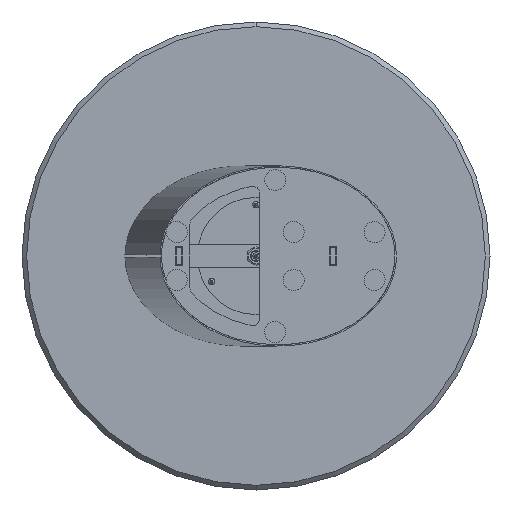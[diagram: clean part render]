
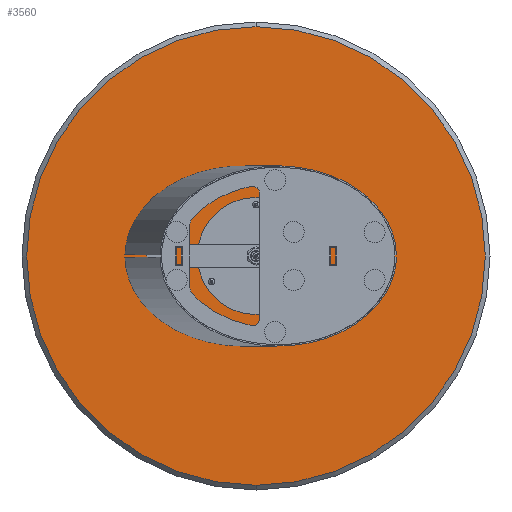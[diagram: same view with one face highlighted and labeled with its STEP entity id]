
A CAD part, front view. The second image highlights one B-rep face of the part: STEP entity #3560.
In plain terms, the highlighted planar face has unit normal (0, -1, 0).
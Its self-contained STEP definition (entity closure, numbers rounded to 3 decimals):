
#107 = ORIENTED_EDGE ( 'NONE', *, *, #2901, .F. ) ;
#286 = DIRECTION ( 'NONE',  ( 0., 0., -1. ) ) ;
#292 = DIRECTION ( 'NONE',  ( 0., 0., -1. ) ) ;
#457 = EDGE_LOOP ( 'NONE', ( #11800, #8296 ) ) ;
#566 = FACE_BOUND ( 'NONE', #9081, .T. ) ;
#742 = CARTESIAN_POINT ( 'NONE',  ( 0., 0., 490. ) ) ;
#769 = FACE_BOUND ( 'NONE', #457, .T. ) ;
#1078 = VERTEX_POINT ( 'NONE', #11345 ) ;
#1106 = CIRCLE ( 'NONE', #7810, 490. ) ;
#1514 = CARTESIAN_POINT ( 'NONE',  ( -95., 0., -51.448 ) ) ;
#1568 = CARTESIAN_POINT ( 'NONE',  ( 95., 0., -54.848 ) ) ;
#1632 = EDGE_CURVE ( 'NONE', #5362, #4061, #10509, .T. ) ;
#1647 = FACE_BOUND ( 'NONE', #8093, .T. ) ;
#1713 = CARTESIAN_POINT ( 'NONE',  ( 0., 0., 0. ) ) ;
#2274 = EDGE_CURVE ( 'NONE', #4061, #5362, #3572, .T. ) ;
#2595 = DIRECTION ( 'NONE',  ( 0., -1., 0. ) ) ;
#2641 = DIRECTION ( 'NONE',  ( 0., 0., -1. ) ) ;
#2680 = VERTEX_POINT ( 'NONE', #5442 ) ;
#2862 = FACE_BOUND ( 'NONE', #8043, .T. ) ;
#2901 = EDGE_CURVE ( 'NONE', #8291, #2680, #8215, .T. ) ;
#2925 = CIRCLE ( 'NONE', #6180, 490. ) ;
#3145 = ORIENTED_EDGE ( 'NONE', *, *, #10932, .F. ) ;
#3267 = DIRECTION ( 'NONE',  ( 0., -1., 0. ) ) ;
#3481 = DIRECTION ( 'NONE',  ( 0., 0., -1. ) ) ;
#3524 = ORIENTED_EDGE ( 'NONE', *, *, #8161, .F. ) ;
#3560 = ADVANCED_FACE ( 'NONE', ( #2862, #1647, #769, #566, #11616 ), #5042, .T. ) ;
#3572 = CIRCLE ( 'NONE', #8429, 3.4 ) ;
#3620 = ORIENTED_EDGE ( 'NONE', *, *, #10472, .T. ) ;
#3823 = AXIS2_PLACEMENT_3D ( 'NONE', #6889, #10133, #292 ) ;
#3869 = CIRCLE ( 'NONE', #6421, 3.4 ) ;
#3883 = DIRECTION ( 'NONE',  ( 0., 0., -1. ) ) ;
#3884 = AXIS2_PLACEMENT_3D ( 'NONE', #9182, #2595, #286 ) ;
#3980 = VERTEX_POINT ( 'NONE', #10248 ) ;
#4022 = AXIS2_PLACEMENT_3D ( 'NONE', #12095, #13184, #5390 ) ;
#4061 = VERTEX_POINT ( 'NONE', #9726 ) ;
#4075 = CIRCLE ( 'NONE', #12159, 3.4 ) ;
#4216 = DIRECTION ( 'NONE',  ( 0., -1., 0. ) ) ;
#4547 = VERTEX_POINT ( 'NONE', #1514 ) ;
#4588 = DIRECTION ( 'NONE',  ( 0., 0., -1. ) ) ;
#5042 = PLANE ( 'NONE',  #10763 ) ;
#5362 = VERTEX_POINT ( 'NONE', #9365 ) ;
#5375 = DIRECTION ( 'NONE',  ( 0., -1., 0. ) ) ;
#5390 = DIRECTION ( 'NONE',  ( 0., 0., -1. ) ) ;
#5442 = CARTESIAN_POINT ( 'NONE',  ( 0., 0., -3.4 ) ) ;
#5644 = CARTESIAN_POINT ( 'NONE',  ( -95., 0., -58.248 ) ) ;
#6060 = EDGE_CURVE ( 'NONE', #4547, #9964, #4075, .T. ) ;
#6180 = AXIS2_PLACEMENT_3D ( 'NONE', #13045, #4216, #10882 ) ;
#6254 = EDGE_CURVE ( 'NONE', #3980, #12107, #3869, .T. ) ;
#6421 = AXIS2_PLACEMENT_3D ( 'NONE', #7888, #11499, #10352 ) ;
#6466 = CARTESIAN_POINT ( 'NONE',  ( -95., 0., -54.848 ) ) ;
#6472 = ORIENTED_EDGE ( 'NONE', *, *, #9407, .T. ) ;
#6889 = CARTESIAN_POINT ( 'NONE',  ( 0., 0., 0. ) ) ;
#7009 = VERTEX_POINT ( 'NONE', #742 ) ;
#7360 = DIRECTION ( 'NONE',  ( 0., -1., 0. ) ) ;
#7810 = AXIS2_PLACEMENT_3D ( 'NONE', #13396, #3267, #3481 ) ;
#7888 = CARTESIAN_POINT ( 'NONE',  ( 95., 0., -54.848 ) ) ;
#8043 = EDGE_LOOP ( 'NONE', ( #3524, #11211 ) ) ;
#8093 = EDGE_LOOP ( 'NONE', ( #8610, #10260 ) ) ;
#8161 = EDGE_CURVE ( 'NONE', #9964, #4547, #10782, .T. ) ;
#8215 = CIRCLE ( 'NONE', #3823, 3.4 ) ;
#8224 = CARTESIAN_POINT ( 'NONE',  ( -95., 0., -54.848 ) ) ;
#8291 = VERTEX_POINT ( 'NONE', #9728 ) ;
#8296 = ORIENTED_EDGE ( 'NONE', *, *, #2274, .F. ) ;
#8429 = AXIS2_PLACEMENT_3D ( 'NONE', #11107, #9073, #4588 ) ;
#8610 = ORIENTED_EDGE ( 'NONE', *, *, #14142, .F. ) ;
#9004 = CIRCLE ( 'NONE', #13869, 3.4 ) ;
#9073 = DIRECTION ( 'NONE',  ( 0., -1., 0. ) ) ;
#9081 = EDGE_LOOP ( 'NONE', ( #3145, #107 ) ) ;
#9182 = CARTESIAN_POINT ( 'NONE',  ( 0., 0., 0. ) ) ;
#9365 = CARTESIAN_POINT ( 'NONE',  ( 0., 0., 106.297 ) ) ;
#9407 = EDGE_CURVE ( 'NONE', #1078, #7009, #2925, .T. ) ;
#9658 = DIRECTION ( 'NONE',  ( 0., -1., 0. ) ) ;
#9726 = CARTESIAN_POINT ( 'NONE',  ( 0., 0., 113.097 ) ) ;
#9728 = CARTESIAN_POINT ( 'NONE',  ( 0., 0., 3.4 ) ) ;
#9773 = DIRECTION ( 'NONE',  ( 0., 0., -1. ) ) ;
#9881 = CIRCLE ( 'NONE', #3884, 3.4 ) ;
#9964 = VERTEX_POINT ( 'NONE', #5644 ) ;
#10133 = DIRECTION ( 'NONE',  ( 0., -1., 0. ) ) ;
#10248 = CARTESIAN_POINT ( 'NONE',  ( 95., 0., -51.448 ) ) ;
#10260 = ORIENTED_EDGE ( 'NONE', *, *, #6254, .F. ) ;
#10352 = DIRECTION ( 'NONE',  ( 0., 0., -1. ) ) ;
#10361 = EDGE_LOOP ( 'NONE', ( #3620, #6472 ) ) ;
#10472 = EDGE_CURVE ( 'NONE', #7009, #1078, #1106, .T. ) ;
#10509 = CIRCLE ( 'NONE', #4022, 3.4 ) ;
#10763 = AXIS2_PLACEMENT_3D ( 'NONE', #1713, #7360, #3883 ) ;
#10782 = CIRCLE ( 'NONE', #13585, 3.4 ) ;
#10882 = DIRECTION ( 'NONE',  ( 0., 0., -1. ) ) ;
#10932 = EDGE_CURVE ( 'NONE', #2680, #8291, #9881, .T. ) ;
#11107 = CARTESIAN_POINT ( 'NONE',  ( 0., 0., 109.697 ) ) ;
#11211 = ORIENTED_EDGE ( 'NONE', *, *, #6060, .F. ) ;
#11345 = CARTESIAN_POINT ( 'NONE',  ( 0., 0., -490. ) ) ;
#11499 = DIRECTION ( 'NONE',  ( 0., -1., 0. ) ) ;
#11616 = FACE_OUTER_BOUND ( 'NONE', #10361, .T. ) ;
#11800 = ORIENTED_EDGE ( 'NONE', *, *, #1632, .F. ) ;
#12095 = CARTESIAN_POINT ( 'NONE',  ( 0., 0., 109.697 ) ) ;
#12107 = VERTEX_POINT ( 'NONE', #12496 ) ;
#12159 = AXIS2_PLACEMENT_3D ( 'NONE', #6466, #5375, #9773 ) ;
#12496 = CARTESIAN_POINT ( 'NONE',  ( 95., 0., -58.248 ) ) ;
#12629 = DIRECTION ( 'NONE',  ( 0., -1., 0. ) ) ;
#13045 = CARTESIAN_POINT ( 'NONE',  ( 0., 0., 0. ) ) ;
#13184 = DIRECTION ( 'NONE',  ( 0., -1., 0. ) ) ;
#13396 = CARTESIAN_POINT ( 'NONE',  ( 0., 0., 0. ) ) ;
#13585 = AXIS2_PLACEMENT_3D ( 'NONE', #8224, #9658, #13792 ) ;
#13792 = DIRECTION ( 'NONE',  ( 0., 0., -1. ) ) ;
#13869 = AXIS2_PLACEMENT_3D ( 'NONE', #1568, #12629, #2641 ) ;
#14142 = EDGE_CURVE ( 'NONE', #12107, #3980, #9004, .T. ) ;
